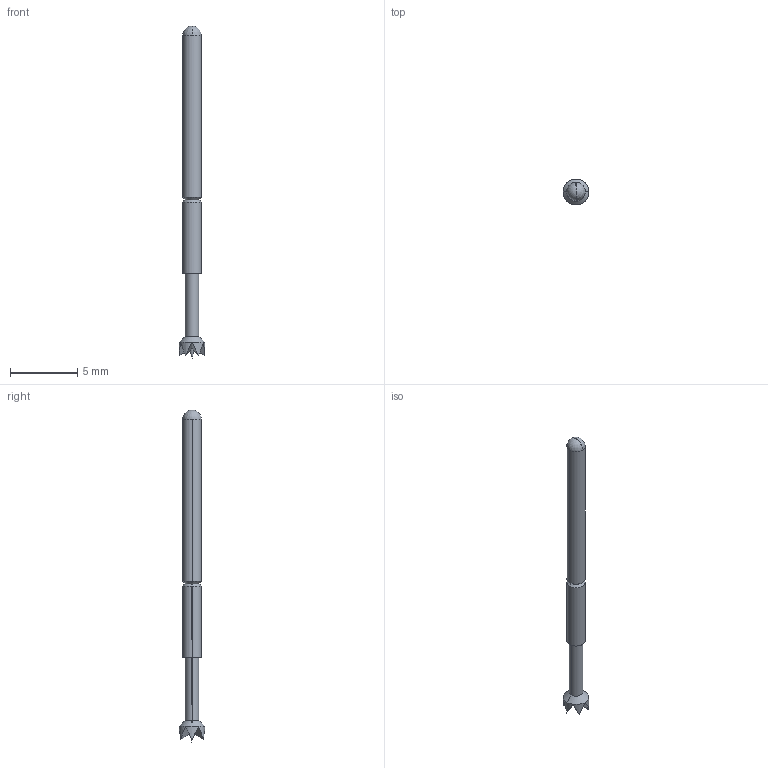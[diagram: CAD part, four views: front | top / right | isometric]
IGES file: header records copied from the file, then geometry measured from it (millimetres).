
Start section: SolidWorks IGES file using analytic representation for surfaces
Global section: file name: \\CODA-VM-SBS\RedirectedFolders\georged\My Documents\CODA CAD FILES\GENERAL PURPOSE TEST PROBES\SHORT REACH TEST PROBES\PA3\PA3R.IGS; native system: SolidWorks 2024; preprocessor: SolidWorks 2024; author: GeorgeD; date: 240710.100901; units: millimetre
Bounding box: 1.9 x 1.9 x 24.64 mm (x, y, z)
Surface area: 107.3 mm2 (no closed solid volume)
Topology: 0 solids, 0 shells, 36 faces, 217 edges, 212 vertices
Faces by surface type: revolution 23, bspline 13
